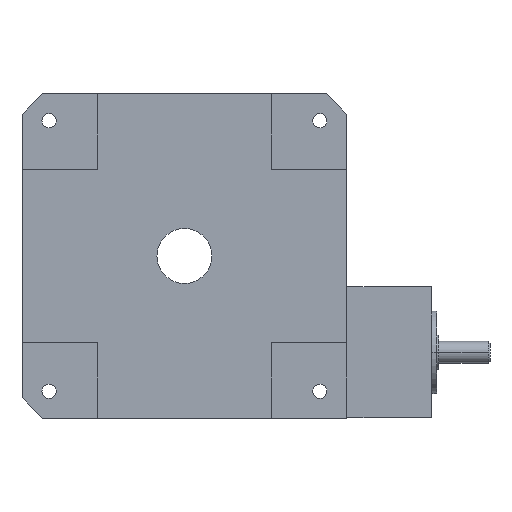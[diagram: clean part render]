
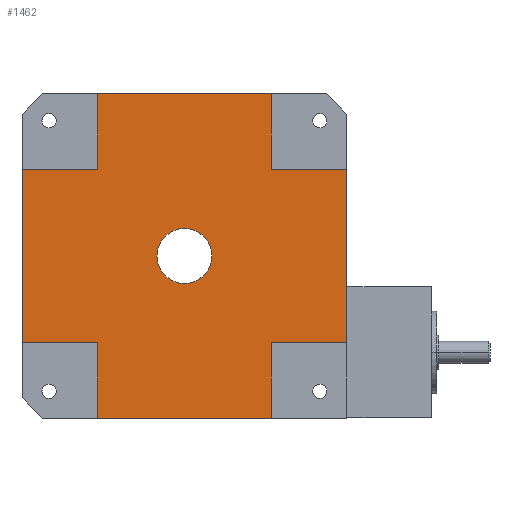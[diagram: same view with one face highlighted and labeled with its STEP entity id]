
A CAD part, front view. The second image highlights one B-rep face of the part: STEP entity #1462.
In plain terms, the highlighted planar face has unit normal (0, -1, 0).
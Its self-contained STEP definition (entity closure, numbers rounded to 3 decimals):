
#5=DIRECTION('',(1.,0.,0.));
#6=VECTOR('',#5,80.);
#7=CARTESIAN_POINT('',(-40.,-30.615,75.));
#8=LINE('',#7,#6);
#85=DIRECTION('',(0.,0.,-1.));
#86=VECTOR('',#85,35.);
#87=CARTESIAN_POINT('',(-40.,-30.615,-40.));
#88=LINE('',#87,#86);
#89=DIRECTION('',(1.,0.,0.));
#90=VECTOR('',#89,35.);
#91=CARTESIAN_POINT('',(-75.,-30.615,-40.));
#92=LINE('',#91,#90);
#93=DIRECTION('',(-1.,0.,0.));
#94=VECTOR('',#93,35.);
#95=CARTESIAN_POINT('',(-40.,-30.615,40.));
#96=LINE('',#95,#94);
#97=DIRECTION('',(0.,0.,-1.));
#98=VECTOR('',#97,35.);
#99=CARTESIAN_POINT('',(-40.,-30.615,75.));
#100=LINE('',#99,#98);
#101=DIRECTION('',(0.,0.,1.));
#102=VECTOR('',#101,35.);
#103=CARTESIAN_POINT('',(40.,-30.615,40.));
#104=LINE('',#103,#102);
#105=DIRECTION('',(-1.,0.,0.));
#106=VECTOR('',#105,35.);
#107=CARTESIAN_POINT('',(75.,-30.615,40.));
#108=LINE('',#107,#106);
#109=DIRECTION('',(1.,0.,0.));
#110=VECTOR('',#109,35.);
#111=CARTESIAN_POINT('',(40.,-30.615,-40.));
#112=LINE('',#111,#110);
#113=DIRECTION('',(0.,0.,1.));
#114=VECTOR('',#113,35.);
#115=CARTESIAN_POINT('',(40.,-30.615,-75.));
#116=LINE('',#115,#114);
#117=CARTESIAN_POINT('',(0.,-30.615,0.));
#118=DIRECTION('',(0.,-1.,0.));
#119=DIRECTION('',(1.,0.,0.));
#120=AXIS2_PLACEMENT_3D('',#117,#118,#119);
#122=CARTESIAN_POINT('',(0.,-30.615,0.));
#123=DIRECTION('',(0.,-1.,0.));
#124=DIRECTION('',(-1.,0.,0.));
#125=AXIS2_PLACEMENT_3D('',#122,#123,#124);
#127=DIRECTION('',(-1.,0.,0.));
#128=VECTOR('',#127,80.);
#129=CARTESIAN_POINT('',(40.,-30.615,-75.));
#130=LINE('',#129,#128);
#364=DIRECTION('',(0.,0.,1.));
#365=VECTOR('',#364,80.);
#366=CARTESIAN_POINT('',(-75.,-30.615,-40.));
#367=LINE('',#366,#365);
#392=DIRECTION('',(0.,0.,-1.));
#393=VECTOR('',#392,80.);
#394=CARTESIAN_POINT('',(75.,-30.615,40.));
#395=LINE('',#394,#393);
#1163=CARTESIAN_POINT('',(40.,-30.615,-75.));
#1164=CARTESIAN_POINT('',(-40.,-30.615,-75.));
#1165=VERTEX_POINT('',#1163);
#1166=VERTEX_POINT('',#1164);
#1167=CARTESIAN_POINT('',(-75.,-30.615,-40.));
#1168=CARTESIAN_POINT('',(-75.,-30.615,40.));
#1169=VERTEX_POINT('',#1167);
#1170=VERTEX_POINT('',#1168);
#1171=CARTESIAN_POINT('',(-40.,-30.615,75.));
#1172=CARTESIAN_POINT('',(40.,-30.615,75.));
#1173=VERTEX_POINT('',#1171);
#1174=VERTEX_POINT('',#1172);
#1175=CARTESIAN_POINT('',(75.,-30.615,40.));
#1176=CARTESIAN_POINT('',(75.,-30.615,-40.));
#1177=VERTEX_POINT('',#1175);
#1178=VERTEX_POINT('',#1176);
#1179=CARTESIAN_POINT('',(40.,-30.615,-40.));
#1180=VERTEX_POINT('',#1179);
#1181=CARTESIAN_POINT('',(40.,-30.615,40.));
#1182=VERTEX_POINT('',#1181);
#1183=CARTESIAN_POINT('',(-40.,-30.615,40.));
#1184=VERTEX_POINT('',#1183);
#1185=CARTESIAN_POINT('',(-40.,-30.615,-40.));
#1186=VERTEX_POINT('',#1185);
#1347=CARTESIAN_POINT('',(12.7,-30.615,0.));
#1348=CARTESIAN_POINT('',(-12.7,-30.615,0.));
#1349=VERTEX_POINT('',#1347);
#1350=VERTEX_POINT('',#1348);
#1426=CARTESIAN_POINT('',(0.,-30.615,0.));
#1427=DIRECTION('',(0.,-1.,0.));
#1428=DIRECTION('',(1.,0.,0.));
#1429=AXIS2_PLACEMENT_3D('',#1426,#1427,#1428);
#1430=PLANE('',#1429);
#1432=ORIENTED_EDGE('',*,*,#1431,.T.);
#1434=ORIENTED_EDGE('',*,*,#1433,.F.);
#1436=ORIENTED_EDGE('',*,*,#1435,.F.);
#1438=ORIENTED_EDGE('',*,*,#1437,.T.);
#1440=ORIENTED_EDGE('',*,*,#1439,.F.);
#1442=ORIENTED_EDGE('',*,*,#1441,.F.);
#1443=ORIENTED_EDGE('',*,*,#1372,.T.);
#1445=ORIENTED_EDGE('',*,*,#1444,.F.);
#1447=ORIENTED_EDGE('',*,*,#1446,.F.);
#1449=ORIENTED_EDGE('',*,*,#1448,.T.);
#1451=ORIENTED_EDGE('',*,*,#1450,.F.);
#1453=ORIENTED_EDGE('',*,*,#1452,.F.);
#1454=EDGE_LOOP('',(#1432,#1434,#1436,#1438,#1440,#1442,#1443,#1445,#1447,#1449,
#1451,#1453));
#1455=FACE_OUTER_BOUND('',#1454,.F.);
#1457=ORIENTED_EDGE('',*,*,#1456,.T.);
#1459=ORIENTED_EDGE('',*,*,#1458,.T.);
#1460=EDGE_LOOP('',(#1457,#1459));
#1461=FACE_BOUND('',#1460,.F.);
#1462=ADVANCED_FACE('',(#1455,#1461),#1430,.T.);
#121=CIRCLE('',#120,12.7);
#126=CIRCLE('',#125,12.7);
#1372=EDGE_CURVE('',#1173,#1174,#8,.T.);
#1431=EDGE_CURVE('',#1165,#1166,#130,.T.);
#1433=EDGE_CURVE('',#1186,#1166,#88,.T.);
#1435=EDGE_CURVE('',#1169,#1186,#92,.T.);
#1437=EDGE_CURVE('',#1169,#1170,#367,.T.);
#1439=EDGE_CURVE('',#1184,#1170,#96,.T.);
#1441=EDGE_CURVE('',#1173,#1184,#100,.T.);
#1444=EDGE_CURVE('',#1182,#1174,#104,.T.);
#1446=EDGE_CURVE('',#1177,#1182,#108,.T.);
#1448=EDGE_CURVE('',#1177,#1178,#395,.T.);
#1450=EDGE_CURVE('',#1180,#1178,#112,.T.);
#1452=EDGE_CURVE('',#1165,#1180,#116,.T.);
#1456=EDGE_CURVE('',#1349,#1350,#121,.T.);
#1458=EDGE_CURVE('',#1350,#1349,#126,.T.);
